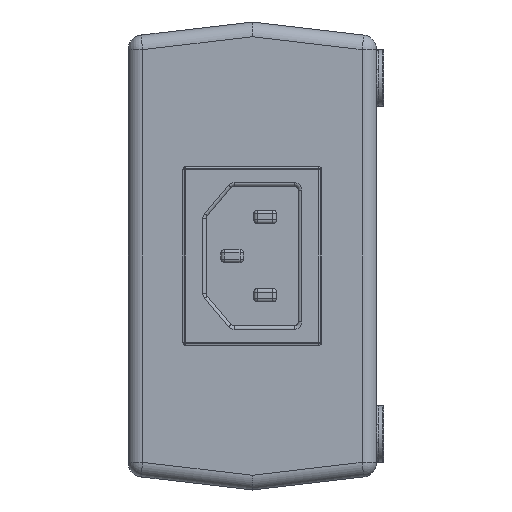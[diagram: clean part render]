
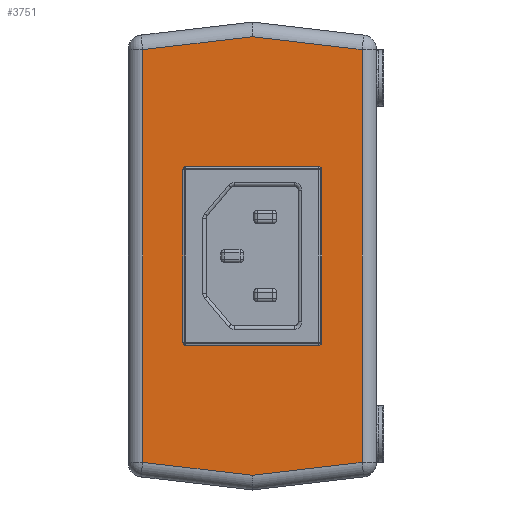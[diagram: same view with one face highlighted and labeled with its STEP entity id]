
A CAD part, left-side view. The second image highlights one B-rep face of the part: STEP entity #3751.
In plain terms, the highlighted planar face has unit normal (-1, 0, 0).
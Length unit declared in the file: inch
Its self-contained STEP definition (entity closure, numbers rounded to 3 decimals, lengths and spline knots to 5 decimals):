
#13 = EDGE_CURVE ( 'NONE', #3628, #2457, #3726, .T. ) ;
#98 = DIRECTION ( 'NONE',  ( 0., 0., -1. ) ) ;
#221 = DIRECTION ( 'NONE',  ( -1., 0., 0. ) ) ;
#225 = CARTESIAN_POINT ( 'NONE',  ( -3.6, 0., -1.49931 ) ) ;
#323 = EDGE_CURVE ( 'NONE', #7071, #6863, #6107, .T. ) ;
#348 = CARTESIAN_POINT ( 'NONE',  ( -3.6, 0.83832, 1.40068 ) ) ;
#505 = AXIS2_PLACEMENT_3D ( 'NONE', #10273, #6302, #2321 ) ;
#553 = EDGE_CURVE ( 'NONE', #971, #9529, #2387, .T. ) ;
#814 = ORIENTED_EDGE ( 'NONE', *, *, #1298, .F. ) ;
#821 = ORIENTED_EDGE ( 'NONE', *, *, #6899, .T. ) ;
#833 = EDGE_CURVE ( 'NONE', #3628, #7583, #2066, .T. ) ;
#868 = DIRECTION ( 'NONE',  ( 0., 0., -1. ) ) ;
#886 = VECTOR ( 'NONE', #8827, 39.37008 ) ;
#892 = ORIENTED_EDGE ( 'NONE', *, *, #5054, .T. ) ;
#971 = VERTEX_POINT ( 'NONE', #4461 ) ;
#1249 = FACE_OUTER_BOUND ( 'NONE', #6648, .T. ) ;
#1298 = EDGE_CURVE ( 'NONE', #4879, #2457, #4215, .T. ) ;
#1316 = CARTESIAN_POINT ( 'NONE',  ( -3.6, 0.475, 0.59 ) ) ;
#1693 = DIRECTION ( 'NONE',  ( 0., 0., 1. ) ) ;
#1910 = DIRECTION ( 'NONE',  ( 0., 0., 1. ) ) ;
#2066 = CIRCLE ( 'NONE', #6245, 0.02 ) ;
#2069 = CARTESIAN_POINT ( 'NONE',  ( -3.6, -0.465, 0.61 ) ) ;
#2077 = EDGE_CURVE ( 'NONE', #8130, #8834, #4785, .T. ) ;
#2158 = ORIENTED_EDGE ( 'NONE', *, *, #4662, .T. ) ;
#2248 = DIRECTION ( 'NONE',  ( 0., 0., -1. ) ) ;
#2321 = DIRECTION ( 'NONE',  ( 0., 0., -1. ) ) ;
#2387 = CIRCLE ( 'NONE', #6919, 0.02 ) ;
#2457 = VERTEX_POINT ( 'NONE', #5081 ) ;
#2553 = ORIENTED_EDGE ( 'NONE', *, *, #323, .T. ) ;
#2586 = DIRECTION ( 'NONE',  ( 0., 0., -1. ) ) ;
#2804 = VECTOR ( 'NONE', #9794, 39.37008 ) ;
#2832 = ORIENTED_EDGE ( 'NONE', *, *, #553, .F. ) ;
#2896 = PLANE ( 'NONE',  #9861 ) ;
#2906 = VECTOR ( 'NONE', #1693, 39.37008 ) ;
#2947 = DIRECTION ( 'NONE',  ( 1., 0., 0. ) ) ;
#2975 = CARTESIAN_POINT ( 'NONE',  ( -3.6, 0.465, -0.61 ) ) ;
#3036 = CARTESIAN_POINT ( 'NONE',  ( -3.6, -0.455, 0.61 ) ) ;
#3043 = CARTESIAN_POINT ( 'NONE',  ( -3.6, -0.475, -0.6 ) ) ;
#3197 = CARTESIAN_POINT ( 'NONE',  ( -3.6, -0.455, -0.59 ) ) ;
#3367 = EDGE_CURVE ( 'NONE', #5326, #7583, #3697, .T. ) ;
#3552 = DIRECTION ( 'NONE',  ( 0., 0.993, -0.117 ) ) ;
#3628 = VERTEX_POINT ( 'NONE', #4979 ) ;
#3697 = LINE ( 'NONE', #2069, #8352 ) ;
#3726 = LINE ( 'NONE', #3043, #7572 ) ;
#3751 = ADVANCED_FACE ( 'NONE', ( #7653, #1249 ), #2896, .F. ) ;
#3819 = VECTOR ( 'NONE', #10024, 39.37008 ) ;
#3881 = CARTESIAN_POINT ( 'NONE',  ( -3.6, -0.75, -1.41108 ) ) ;
#3926 = ORIENTED_EDGE ( 'NONE', *, *, #2077, .T. ) ;
#4150 = LINE ( 'NONE', #7352, #2804 ) ;
#4162 = CARTESIAN_POINT ( 'NONE',  ( -3.6, 0.75, 1.6 ) ) ;
#4215 = CIRCLE ( 'NONE', #6217, 0.02 ) ;
#4226 = EDGE_CURVE ( 'NONE', #6880, #8130, #9105, .T. ) ;
#4300 = CARTESIAN_POINT ( 'NONE',  ( -3.6, -0.75, 1.41108 ) ) ;
#4461 = CARTESIAN_POINT ( 'NONE',  ( -3.6, 0.475, -0.59 ) ) ;
#4537 = CARTESIAN_POINT ( 'NONE',  ( -3.6, -0.75, 1.5 ) ) ;
#4552 = EDGE_CURVE ( 'NONE', #6863, #6880, #8358, .T. ) ;
#4616 = ORIENTED_EDGE ( 'NONE', *, *, #4552, .T. ) ;
#4662 = EDGE_CURVE ( 'NONE', #10241, #7071, #5461, .T. ) ;
#4785 = LINE ( 'NONE', #4162, #886 ) ;
#4879 = VERTEX_POINT ( 'NONE', #8242 ) ;
#4975 = VERTEX_POINT ( 'NONE', #1316 ) ;
#4979 = CARTESIAN_POINT ( 'NONE',  ( -3.6, -0.475, 0.59 ) ) ;
#5054 = EDGE_CURVE ( 'NONE', #971, #4975, #8036, .T. ) ;
#5081 = CARTESIAN_POINT ( 'NONE',  ( -3.6, -0.475, -0.59 ) ) ;
#5326 = VERTEX_POINT ( 'NONE', #9908 ) ;
#5336 = CARTESIAN_POINT ( 'NONE',  ( -3.6, 0.85, 1.6 ) ) ;
#5461 = LINE ( 'NONE', #7141, #9878 ) ;
#6045 = VECTOR ( 'NONE', #3552, 39.37008 ) ;
#6107 = LINE ( 'NONE', #4537, #8065 ) ;
#6217 = AXIS2_PLACEMENT_3D ( 'NONE', #3197, #6383, #868 ) ;
#6245 = AXIS2_PLACEMENT_3D ( 'NONE', #8809, #8964, #98 ) ;
#6302 = DIRECTION ( 'NONE',  ( -1., 0., 0. ) ) ;
#6383 = DIRECTION ( 'NONE',  ( -1., 0., 0. ) ) ;
#6407 = ORIENTED_EDGE ( 'NONE', *, *, #10210, .F. ) ;
#6599 = CARTESIAN_POINT ( 'NONE',  ( -3.6, 0.455, -0.61 ) ) ;
#6648 = EDGE_LOOP ( 'NONE', ( #2553, #4616, #7216, #3926, #821, #2158 ) ) ;
#6679 = CARTESIAN_POINT ( 'NONE',  ( -3.6, 0.85008, 1.59932 ) ) ;
#6825 = ORIENTED_EDGE ( 'NONE', *, *, #7827, .T. ) ;
#6863 = VERTEX_POINT ( 'NONE', #4300 ) ;
#6880 = VERTEX_POINT ( 'NONE', #7452 ) ;
#6899 = EDGE_CURVE ( 'NONE', #8834, #10241, #4150, .T. ) ;
#6919 = AXIS2_PLACEMENT_3D ( 'NONE', #9748, #221, #2586 ) ;
#7071 = VERTEX_POINT ( 'NONE', #3881 ) ;
#7141 = CARTESIAN_POINT ( 'NONE',  ( -3.6, 0.47875, -1.55563 ) ) ;
#7216 = ORIENTED_EDGE ( 'NONE', *, *, #4226, .T. ) ;
#7352 = CARTESIAN_POINT ( 'NONE',  ( -3.6, -0.01168, -1.50068 ) ) ;
#7452 = CARTESIAN_POINT ( 'NONE',  ( -3.6, 0., 1.49931 ) ) ;
#7458 = ORIENTED_EDGE ( 'NONE', *, *, #833, .F. ) ;
#7572 = VECTOR ( 'NONE', #2248, 39.37008 ) ;
#7583 = VERTEX_POINT ( 'NONE', #3036 ) ;
#7653 = FACE_BOUND ( 'NONE', #10184, .T. ) ;
#7783 = DIRECTION ( 'NONE',  ( 0., -0.993, 0.117 ) ) ;
#7827 = EDGE_CURVE ( 'NONE', #4879, #9529, #10079, .T. ) ;
#7872 = CIRCLE ( 'NONE', #505, 0.02 ) ;
#8036 = LINE ( 'NONE', #8883, #2906 ) ;
#8065 = VECTOR ( 'NONE', #1910, 39.37008 ) ;
#8130 = VERTEX_POINT ( 'NONE', #9602 ) ;
#8242 = CARTESIAN_POINT ( 'NONE',  ( -3.6, -0.455, -0.61 ) ) ;
#8352 = VECTOR ( 'NONE', #9294, 39.37008 ) ;
#8358 = LINE ( 'NONE', #6679, #9048 ) ;
#8362 = ORIENTED_EDGE ( 'NONE', *, *, #3367, .T. ) ;
#8596 = ORIENTED_EDGE ( 'NONE', *, *, #13, .T. ) ;
#8809 = CARTESIAN_POINT ( 'NONE',  ( -3.6, -0.455, 0.59 ) ) ;
#8827 = DIRECTION ( 'NONE',  ( 0., 0., -1. ) ) ;
#8834 = VERTEX_POINT ( 'NONE', #10288 ) ;
#8883 = CARTESIAN_POINT ( 'NONE',  ( -3.6, 0.475, 0.6 ) ) ;
#8964 = DIRECTION ( 'NONE',  ( -1., 0., 0. ) ) ;
#9048 = VECTOR ( 'NONE', #9962, 39.37008 ) ;
#9105 = LINE ( 'NONE', #348, #6045 ) ;
#9294 = DIRECTION ( 'NONE',  ( 0., -1., 0. ) ) ;
#9529 = VERTEX_POINT ( 'NONE', #6599 ) ;
#9602 = CARTESIAN_POINT ( 'NONE',  ( -3.6, 0.75, 1.41108 ) ) ;
#9748 = CARTESIAN_POINT ( 'NONE',  ( -3.6, 0.455, -0.59 ) ) ;
#9794 = DIRECTION ( 'NONE',  ( 0., -0.993, -0.117 ) ) ;
#9861 = AXIS2_PLACEMENT_3D ( 'NONE', #5336, #2947, #9940 ) ;
#9878 = VECTOR ( 'NONE', #7783, 39.37008 ) ;
#9908 = CARTESIAN_POINT ( 'NONE',  ( -3.6, 0.455, 0.61 ) ) ;
#9940 = DIRECTION ( 'NONE',  ( 0., 0., -1. ) ) ;
#9962 = DIRECTION ( 'NONE',  ( 0., 0.993, 0.117 ) ) ;
#10024 = DIRECTION ( 'NONE',  ( 0., 1., 0. ) ) ;
#10079 = LINE ( 'NONE', #2975, #3819 ) ;
#10184 = EDGE_LOOP ( 'NONE', ( #814, #6825, #2832, #892, #6407, #8362, #7458, #8596 ) ) ;
#10210 = EDGE_CURVE ( 'NONE', #5326, #4975, #7872, .T. ) ;
#10241 = VERTEX_POINT ( 'NONE', #225 ) ;
#10273 = CARTESIAN_POINT ( 'NONE',  ( -3.6, 0.455, 0.59 ) ) ;
#10288 = CARTESIAN_POINT ( 'NONE',  ( -3.6, 0.75, -1.41108 ) ) ;
